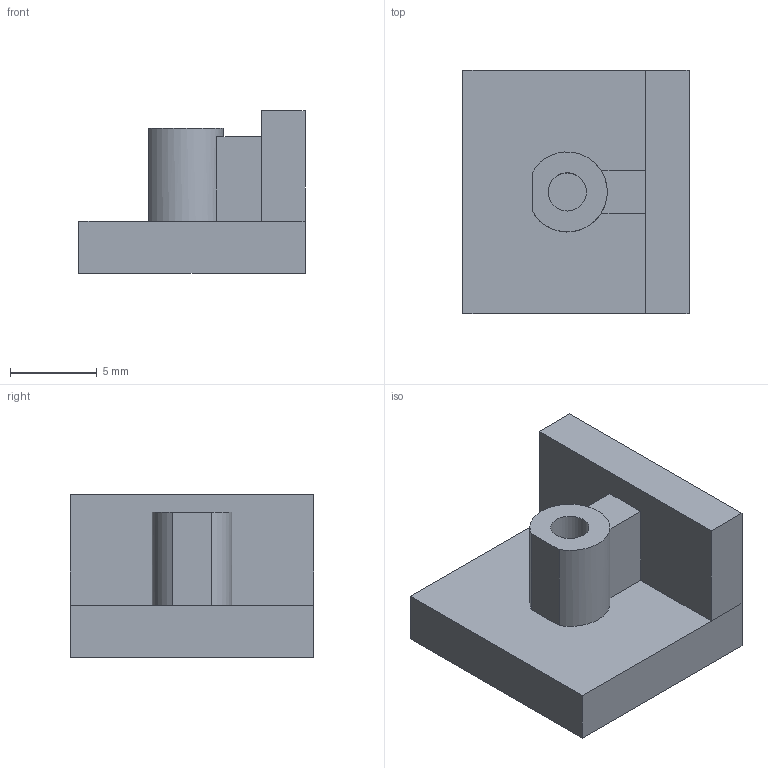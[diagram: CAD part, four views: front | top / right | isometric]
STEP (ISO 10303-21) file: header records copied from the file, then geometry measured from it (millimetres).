
FILE_DESCRIPTION(('Open CASCADE Model'),'2;1');
FILE_NAME('Open CASCADE Shape Model','2026-09-15T13:32:55',('Author'),( 'Open CASCADE'),'Open CASCADE STEP processor 7.7','Open CASCADE 7.7' ,'Unknown');
FILE_SCHEMA(('AUTOMOTIVE_DESIGN { 1 0 10303 214 1 1 1 1 }'));
Length unit declared in the file: millimetre
Products named in the file (1): QP01_CLOSURE_PILOT_D2.2
Bounding box: 13 x 14 x 9.35 mm (x, y, z)
Volume: 860 mm3; surface area: 853.8 mm2
Topology: 1 solids, 1 shells, 20 faces, 47 edges, 30 vertices
Faces by surface type: plane 17, cylinder 3
Full cylindrical faces by diameter (mm): 2.2 x1
Entity records: 1171 total; most frequent: CARTESIAN_POINT 209, DIRECTION 174, LINE 108, VECTOR 108, ORIENTED_EDGE 94, PCURVE 94, DEFINITIONAL_REPRESENTATION 94, EDGE_CURVE 47
